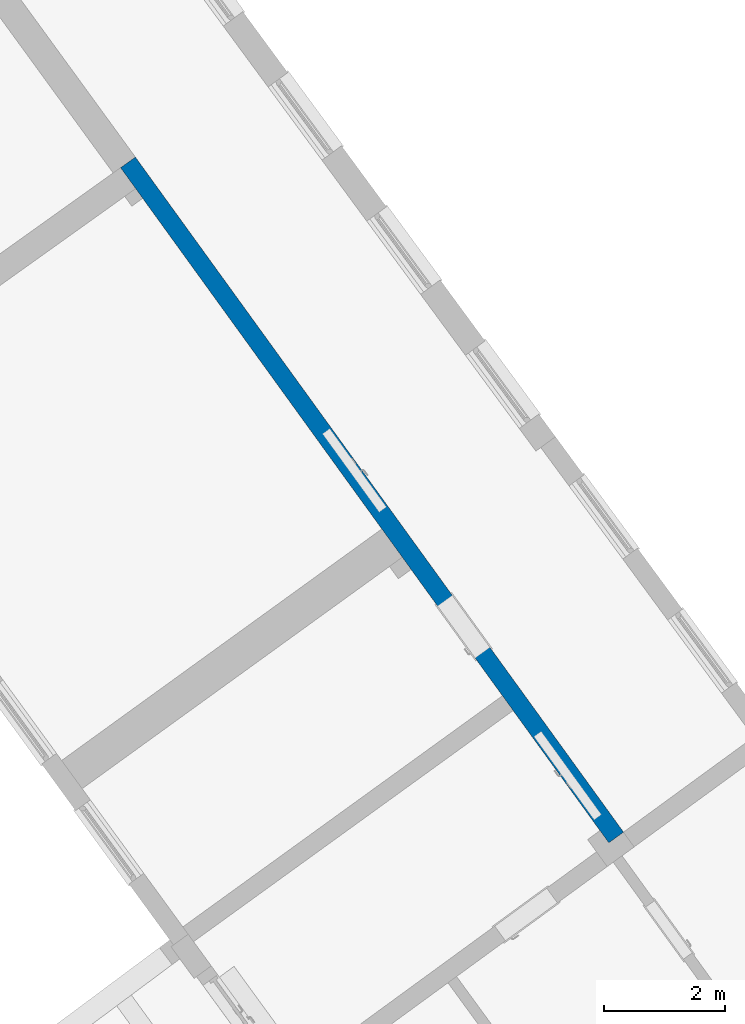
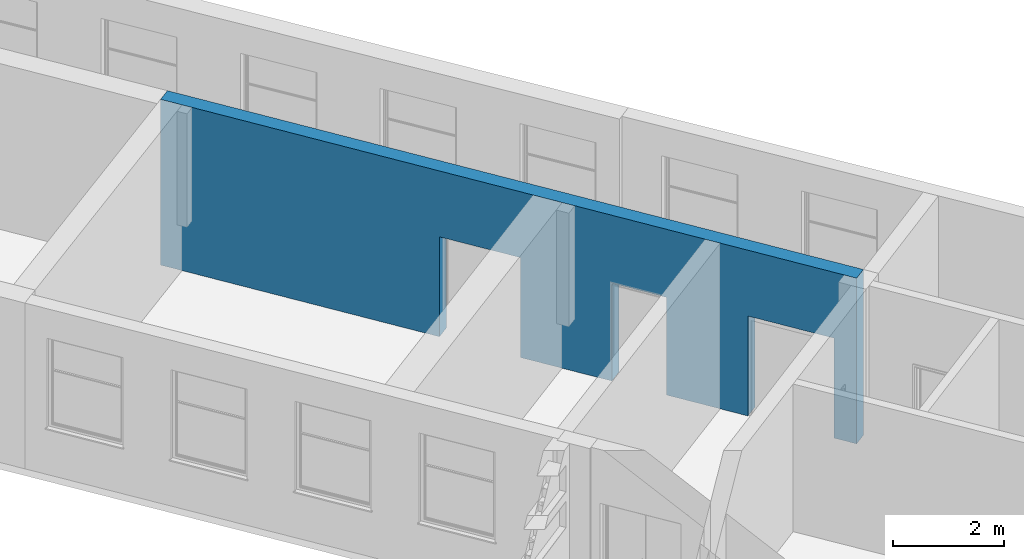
# One storey, part 102 of 157: 1 wall, 3 openings.
"""IFC2X3 building model written with IfcOpenShell, lengths in millimetres."""

from ifc_helpers import new_model, entity, si_unit, converted_unit, derived_unit, direction, frame, frame_2d, origin, place, context, subcontext, project, spatial, polyline, rectangle, outline, extrude, material, layer, layer_set, layer_usage, type_object, element, save


model = new_model("IFC2X3")

# Units and contexts
model_context = context("Model", 3, precision=0.01, world=origin(), true_north=direction((6.123031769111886e-17, 1.0)))
body_context = subcontext(model_context, "Body", "Model", "MODEL_VIEW")
ifc_project = project(units=[si_unit("LENGTHUNIT", "METRE", prefix="MILLI"), si_unit("AREAUNIT", "SQUARE_METRE"), si_unit("VOLUMEUNIT", "CUBIC_METRE"), converted_unit("PLANEANGLEUNIT", "DEGREE", entity("IfcRatioMeasure", 0.017453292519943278), si_unit("PLANEANGLEUNIT", "RADIAN"), dimensions=[0, 0, 0, 0, 0, 0, 0]), si_unit("MASSUNIT", "GRAM", prefix="KILO"), derived_unit("MASSDENSITYUNIT", [(si_unit("MASSUNIT", "GRAM", prefix="KILO"), 1), (si_unit("LENGTHUNIT", "METRE"), -3)]), derived_unit("MOMENTOFINERTIAUNIT", [(si_unit("LENGTHUNIT", "METRE"), 4)]), si_unit("TIMEUNIT", "SECOND"), si_unit("FREQUENCYUNIT", "HERTZ"), si_unit("THERMODYNAMICTEMPERATUREUNIT", "DEGREE_CELSIUS"), derived_unit("THERMALTRANSMITTANCEUNIT", [(si_unit("MASSUNIT", "GRAM", prefix="KILO"), 1), (si_unit("THERMODYNAMICTEMPERATUREUNIT", "KELVIN"), -1), (si_unit("TIMEUNIT", "SECOND"), -3)]), derived_unit("THERMALCONDUCTANCEUNIT", [(si_unit("MASSUNIT", "GRAM", prefix="KILO"), 1), (si_unit("LENGTHUNIT", "METRE"), 1), (si_unit("THERMODYNAMICTEMPERATUREUNIT", "KELVIN"), -1), (si_unit("TIMEUNIT", "SECOND"), -3)]), derived_unit("VOLUMETRICFLOWRATEUNIT", [(si_unit("LENGTHUNIT", "METRE"), 3), (si_unit("TIMEUNIT", "SECOND"), -1)]), derived_unit("MASSFLOWRATEUNIT", [(si_unit("MASSUNIT", "GRAM", prefix="KILO"), 1), (si_unit("TIMEUNIT", "SECOND"), -1)]), derived_unit("ROTATIONALFREQUENCYUNIT", [(si_unit("TIMEUNIT", "SECOND"), -1)]), si_unit("ELECTRICCURRENTUNIT", "AMPERE"), si_unit("ELECTRICVOLTAGEUNIT", "VOLT"), si_unit("POWERUNIT", "WATT"), converted_unit("FORCEUNIT", "KIP", entity("IfcRatioMeasure", 2.088543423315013e-05), si_unit("FORCEUNIT", "NEWTON"), dimensions=[1, 1, -2, 0, 0, 0, 0]), si_unit("ILLUMINANCEUNIT", "LUX"), si_unit("LUMINOUSFLUXUNIT", "LUMEN"), si_unit("LUMINOUSINTENSITYUNIT", "CANDELA"), derived_unit("USERDEFINED", [(si_unit("MASSUNIT", "GRAM", prefix="KILO"), -1), (si_unit("LENGTHUNIT", "METRE"), -2), (si_unit("TIMEUNIT", "SECOND"), 3), (si_unit("LUMINOUSFLUXUNIT", "LUMEN"), 1)]), derived_unit("USERDEFINED", [(si_unit("MASSUNIT", "GRAM", prefix="KILO"), 1), (si_unit("LENGTHUNIT", "METRE"), 3), (si_unit("TIMEUNIT", "SECOND"), -3), (si_unit("ELECTRICCURRENTUNIT", "AMPERE"), -2)]), derived_unit("USERDEFINED", [(si_unit("LENGTHUNIT", "METRE"), 2), (si_unit("TIMEUNIT", "SECOND"), -2)]), derived_unit("SOUNDPOWERUNIT", [(si_unit("MASSUNIT", "GRAM", prefix="KILO"), 1), (si_unit("LENGTHUNIT", "METRE"), 2), (si_unit("TIMEUNIT", "SECOND"), -3)]), derived_unit("SOUNDPRESSUREUNIT", [(si_unit("MASSUNIT", "GRAM", prefix="KILO"), 1), (si_unit("LENGTHUNIT", "METRE"), -1), (si_unit("TIMEUNIT", "SECOND"), -2)]), derived_unit("LINEARVELOCITYUNIT", [(si_unit("LENGTHUNIT", "METRE"), 1), (si_unit("TIMEUNIT", "SECOND"), -1)]), si_unit("PRESSUREUNIT", "PASCAL"), derived_unit("USERDEFINED", [(si_unit("LENGTHUNIT", "METRE"), -2), (si_unit("MASSUNIT", "GRAM", prefix="KILO"), 1), (si_unit("TIMEUNIT", "SECOND"), -2)]), derived_unit("LINEARFORCEUNIT", [(si_unit("MASSUNIT", "GRAM", prefix="KILO"), 1), (si_unit("LENGTHUNIT", "METRE"), 1), (si_unit("TIMEUNIT", "SECOND"), -2), (si_unit("LENGTHUNIT", "METRE"), -1)]), derived_unit("PLANARFORCEUNIT", [(si_unit("MASSUNIT", "GRAM", prefix="KILO"), 1), (si_unit("LENGTHUNIT", "METRE"), 1), (si_unit("TIMEUNIT", "SECOND"), -2), (si_unit("LENGTHUNIT", "METRE"), -2)]), derived_unit("SPECIFICHEATCAPACITYUNIT", [(si_unit("LENGTHUNIT", "METRE"), 2), (si_unit("TIMEUNIT", "SECOND"), -2), (si_unit("THERMODYNAMICTEMPERATUREUNIT", "KELVIN"), -1)]), derived_unit("VAPORPERMEABILITYUNIT", [(si_unit("TIMEUNIT", "SECOND"), 1), (si_unit("LENGTHUNIT", "METRE"), -1)]), derived_unit("DYNAMICVISCOSITYUNIT", [(si_unit("MASSUNIT", "GRAM", prefix="KILO"), 1), (si_unit("LENGTHUNIT", "METRE"), -1), (si_unit("TIMEUNIT", "SECOND"), -1)]), derived_unit("THERMALEXPANSIONCOEFFICIENTUNIT", [(si_unit("THERMODYNAMICTEMPERATUREUNIT", "KELVIN"), -1)])], contexts=[model_context])

# Site, building, storey
site_placement = place(None, frame((0.0, 0.0, 0.0), z_axis=(0.0, 0.0, 1.0), x_axis=(0.8191520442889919, 0.5735764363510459, 0.0)))
site = spatial("IfcSite", under=ifc_project, at=site_placement, Name="Default", CompositionType="ELEMENT")
building_placement = place(site_placement, origin())
building = spatial("IfcBuilding", under=site, at=building_placement, CompositionType="ELEMENT")
storey_placement = place(building_placement, origin())
storey = spatial("IfcBuildingStorey", under=building, at=storey_placement, Name="1.EG +0.00", CompositionType="ELEMENT", Elevation=-4.331468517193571e-12)

# Wall, openings
ifc_material = material(Name="Analytical Wall Surface_CJC")
ifc_layer = layer(ifc_material, 300.0)
ifc_layer_set = layer_set([ifc_layer], Name="Basic Wall:Wand_Innen_30")
ifc_layer_usage = layer_usage(ifc_layer_set, "AXIS2", "POSITIVE", -150.0)
wall_type = type_object("IfcWallType", Name="Basic Wall:Wand_Innen_30", PredefinedType="STANDARD", material=ifc_layer_set)
wall_placement = place(storey_placement, frame((-184119.3670992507, 164705.91778831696, -1150.0), z_axis=(0.0, 0.0, 1.0), x_axis=(-0.015240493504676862, 0.9998838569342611, 0.0)))
wall = element("IfcWallStandardCase", 1, at=wall_placement, inside=storey, type_object=wall_type, material=ifc_layer_usage, Name="Basic Wall:Wand_Innen_30", ObjectType="Basic Wall:Wand_Innen_30", context=body_context, shape_type="SweptSolid", body=[
    extrude(outline(polyline([(1.2804867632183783, -150.0), (5720.622427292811, -150.0), (5940.623359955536, -150.0), (13757.61285340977, -150.0), (13759.380587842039, 150.0), (13334.37320970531, 150.0), (13136.018725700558, 150.0), (6396.586586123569, 150.0), (5821.586583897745, 150.0), (5572.01071541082, 150.0), (2997.17510493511, 150.0), (2697.1751049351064, 150.0), (249.31563487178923, 150.0), (0.0, 150.0), (1.2739701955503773, -148.4732600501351), (1.2804867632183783, -150.0)])), origin(), (0.0, 0.0, 1.0), 3650.000000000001),
])
opening_1_placement = place(wall_placement, frame((8245.345622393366, 150.0, 0.0)))
element("IfcOpeningElement", 2, at=opening_1_placement, cuts=wall, Name="M_Door-Passage-Double-Flush:150x210:1", ObjectType="Opening", context=body_context, shape_type="SweptSolid", body=[
    extrude(rectangle(XDim=2200.0, YDim=1599.999999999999, at=frame_2d((1100.0, 799.9999999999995), x_axis=(1.0, 0.0))), frame((0.0, 0.0, 0.0), z_axis=(0.0, -1.0, 0.0), x_axis=(0.0, 0.0, 1.0)), (0.0, 0.0, 1.0), 300.0),
])
opening_2_placement = place(wall_placement, frame((448.1251049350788, -150.0, 0.0)))
element("IfcOpeningElement", 3, at=opening_2_placement, cuts=wall, Name="M_Door-Passage-Double-Flush:160x210:1", ObjectType="Opening", context=body_context, shape_type="SweptSolid", body=[
    extrude(rectangle(XDim=2200.0, YDim=1699.9999999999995, at=frame_2d((1100.0, 849.9999999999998), x_axis=(1.0, 0.0))), frame((0.0, 0.0, 0.0), z_axis=(0.0, 1.0, 0.0), x_axis=(0.0, 0.0, 1.0)), (0.0, 0.0, 1.0), 300.0),
])
opening_3_placement = place(wall_placement, frame((3756.5870247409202, -150.0, 0.0)))
element("IfcOpeningElement", 4, at=opening_3_placement, cuts=wall, Name="Doors_IntSgl:100x210:1", ObjectType="Opening", context=body_context, shape_type="SweptSolid", body=[
    extrude(rectangle(XDim=2150.000000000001, YDim=1079.9999999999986, at=frame_2d((1075.0000000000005, 539.9999999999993), x_axis=(1.0, 0.0))), frame((0.0, 0.0, 0.0), z_axis=(0.0, 1.0, 0.0), x_axis=(0.0, 0.0, 1.0)), (0.0, 0.0, 1.0), 300.0),
])

save(model, "model.ifc")
